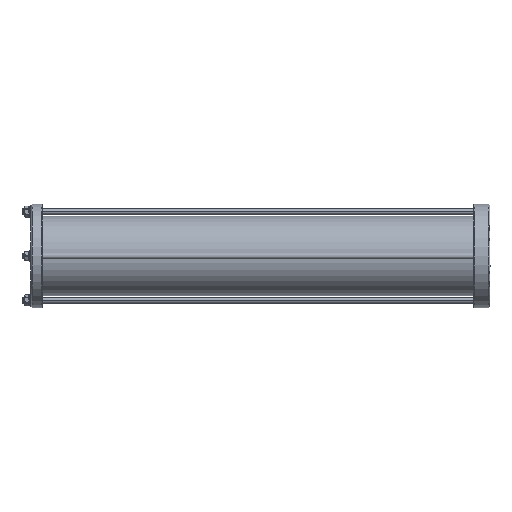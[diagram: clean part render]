
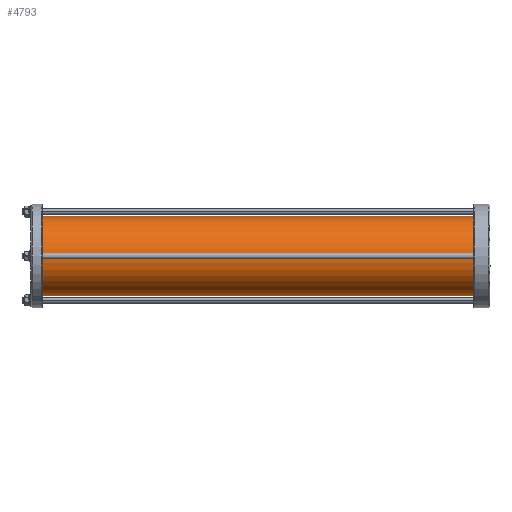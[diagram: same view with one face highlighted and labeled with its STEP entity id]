
A CAD part, left-side view. The second image highlights one B-rep face of the part: STEP entity #4793.
In plain terms, the highlighted cylindrical face has radius 41 mm (diameter 82 mm), a partial arc.
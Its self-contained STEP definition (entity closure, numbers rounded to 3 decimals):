
#1454 = CARTESIAN_POINT ( 'NONE',  ( 40.045, 478.458, 60.617 ) ) ;
#3668 = ORIENTED_EDGE ( 'NONE', *, *, #86333, .T. ) ;
#4793 = ADVANCED_FACE ( 'NONE', ( #58231 ), #76413, .T. ) ;
#7831 = DIRECTION ( 'NONE',  ( 0., 1., 0. ) ) ;
#9908 = EDGE_CURVE ( 'NONE', #107489, #41191, #38681, .T. ) ;
#11177 = LINE ( 'NONE', #19334, #108140 ) ;
#12218 = CARTESIAN_POINT ( 'NONE',  ( 40.045, 478.458, 142.617 ) ) ;
#12351 = CARTESIAN_POINT ( 'NONE',  ( 40.045, 23.458, 60.617 ) ) ;
#19334 = CARTESIAN_POINT ( 'NONE',  ( 40.045, 478.458, 142.617 ) ) ;
#31861 = CARTESIAN_POINT ( 'NONE',  ( 40.045, 478.458, 101.617 ) ) ;
#34000 = DIRECTION ( 'NONE',  ( 0., 0., 1. ) ) ;
#36906 = VERTEX_POINT ( 'NONE', #12351 ) ;
#38348 = CARTESIAN_POINT ( 'NONE',  ( 40.045, 478.458, 60.617 ) ) ;
#38681 = CIRCLE ( 'NONE', #55525, 41. ) ;
#40542 = VERTEX_POINT ( 'NONE', #74716 ) ;
#40902 = AXIS2_PLACEMENT_3D ( 'NONE', #31861, #58814, #76980 ) ;
#41191 = VERTEX_POINT ( 'NONE', #12218 ) ;
#43967 = ORIENTED_EDGE ( 'NONE', *, *, #71731, .F. ) ;
#55525 = AXIS2_PLACEMENT_3D ( 'NONE', #100399, #93397, #34000 ) ;
#58231 = FACE_OUTER_BOUND ( 'NONE', #97019, .T. ) ;
#58814 = DIRECTION ( 'NONE',  ( 0., -1., 0. ) ) ;
#67177 = ORIENTED_EDGE ( 'NONE', *, *, #9908, .F. ) ;
#68413 = CIRCLE ( 'NONE', #70250, 41. ) ;
#70250 = AXIS2_PLACEMENT_3D ( 'NONE', #88181, #7831, #97003 ) ;
#70905 = VECTOR ( 'NONE', #79933, 1000. ) ;
#71720 = LINE ( 'NONE', #1454, #70905 ) ;
#71731 = EDGE_CURVE ( 'NONE', #41191, #40542, #11177, .T. ) ;
#73829 = DIRECTION ( 'NONE',  ( 0., -1., 0. ) ) ;
#74578 = EDGE_CURVE ( 'NONE', #107489, #36906, #71720, .T. ) ;
#74716 = CARTESIAN_POINT ( 'NONE',  ( 40.045, 23.458, 142.617 ) ) ;
#76413 = CYLINDRICAL_SURFACE ( 'NONE', #40902, 41. ) ;
#76980 = DIRECTION ( 'NONE',  ( 0., 0., -1. ) ) ;
#79933 = DIRECTION ( 'NONE',  ( 0., -1., 0. ) ) ;
#80197 = ORIENTED_EDGE ( 'NONE', *, *, #74578, .T. ) ;
#86333 = EDGE_CURVE ( 'NONE', #36906, #40542, #68413, .T. ) ;
#88181 = CARTESIAN_POINT ( 'NONE',  ( 40.045, 23.458, 101.617 ) ) ;
#93397 = DIRECTION ( 'NONE',  ( 0., 1., 0. ) ) ;
#97003 = DIRECTION ( 'NONE',  ( 0., 0., 1. ) ) ;
#97019 = EDGE_LOOP ( 'NONE', ( #43967, #67177, #80197, #3668 ) ) ;
#100399 = CARTESIAN_POINT ( 'NONE',  ( 40.045, 478.458, 101.617 ) ) ;
#107489 = VERTEX_POINT ( 'NONE', #38348 ) ;
#108140 = VECTOR ( 'NONE', #73829, 1000. ) ;
